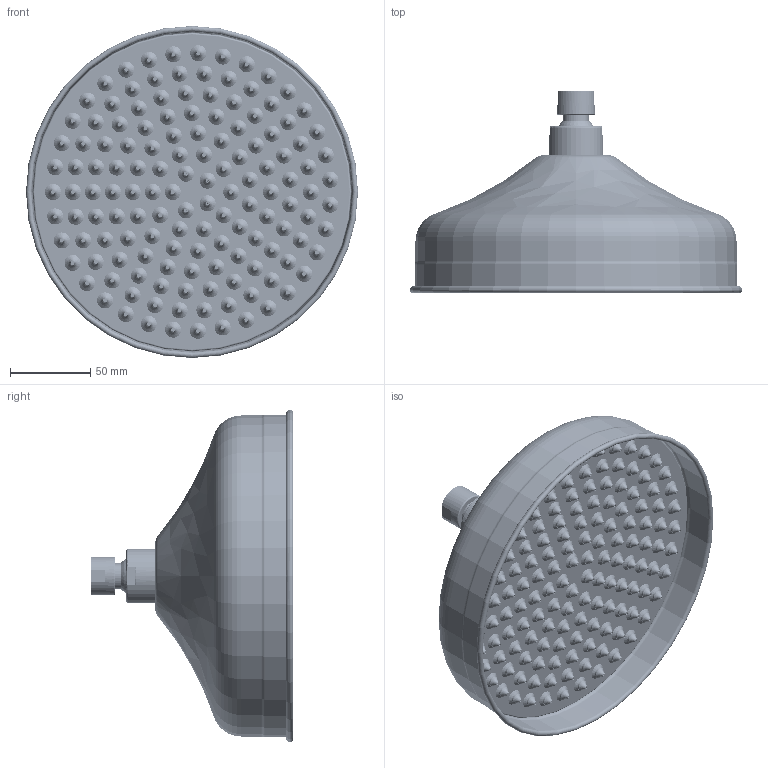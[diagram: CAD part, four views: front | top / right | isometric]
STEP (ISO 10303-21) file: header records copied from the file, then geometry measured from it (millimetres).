
FILE_DESCRIPTION((''),'2;1');
FILE_NAME('37221--00_ASM','2022-10-11T16:46:53',('sosm1'),(''),'CREO PARAMETRIC BY PTC INC, 2018190','CREO PARAMETRIC BY PTC INC, 2018190','');
FILE_SCHEMA(('CONFIG_CONTROL_DESIGN','SHAPE_APPEARANCE_LAYERS_GROUPS'));
Products named in the file (16): 37221--00_1; 37221--00_2; 37221--00_3; 37221--00_6; 37221--00_3_ASM; 37221--00_4; 37221--00_5; 37221--00_8; 37221--00_7; 37221--00_9; 37221--00_10; 37221--00_11; 37221--00_12; 37221--00_13; 46050--_ASM; 37221--00_ASM
Assembly tree (24 placements, depth 4):
  37221--00_ASM
    46050--_ASM
      37221--00_1
      37221--00_2
      37221--00_3_ASM
        37221--00_3
        37221--00_6
      37221--00_4
      37221--00_5
      37221--00_8
      37221--00_7
      37221--00_9  x10
      37221--00_10
      37221--00_11
      37221--00_12
      37221--00_13
Bounding box: 206.49 x 125.6 x 206.49 mm (x, y, z)
Volume: 308833.5 mm3; surface area: 421527.1 mm2
Topology: 22 solids, 22 shells, 5591 faces, 13271 edges, 8314 vertices
Faces by surface type: cylinder 2075, plane 1690, torus 905, cone 770, bspline 142, sphere 9
Entity records: 211112 total; most frequent: CARTESIAN_POINT 49484, DIRECTION 28082, ORIENTED_EDGE 24454, PRESENTATION_STYLE_ASSIGNMENT 12240, STYLED_ITEM 12240, CURVE_STYLE 12227, EDGE_CURVE 12227, AXIS2_PLACEMENT_3D 11412
